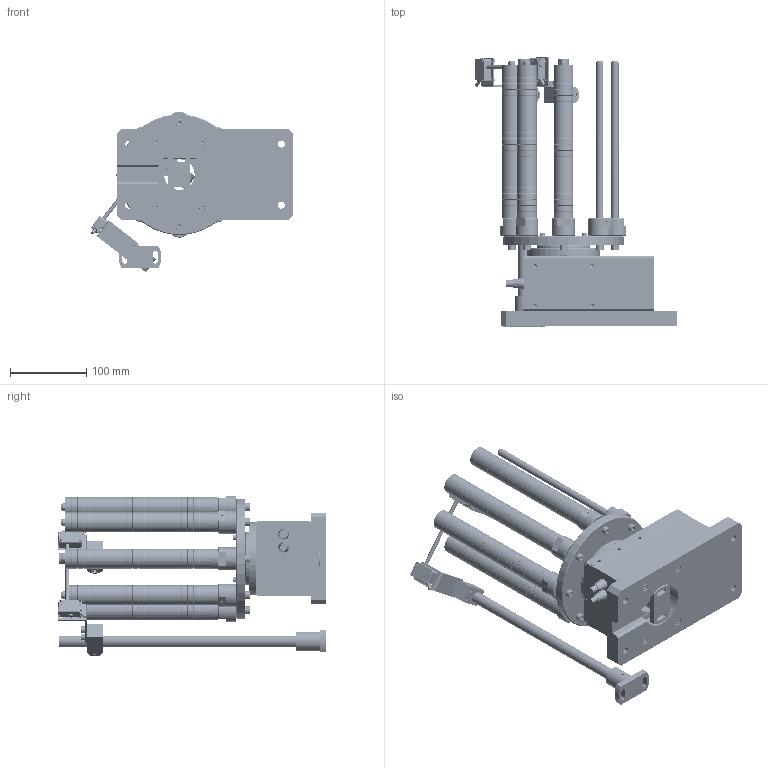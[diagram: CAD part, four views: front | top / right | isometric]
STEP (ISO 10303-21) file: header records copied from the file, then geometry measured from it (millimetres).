
FILE_DESCRIPTION (( 'STEP AP214' ), '1' );
FILE_NAME ('newローターリーストッカーASSY.STEP', '2025-10-22T08:29:05', ( '' ), ( '' ), 'SwSTEP 2.0', 'SolidWorks 2023', '' );
FILE_SCHEMA (( 'AUTOMOTIVE_DESIGN' ));
Length unit declared in the file: millimetre
Products named in the file (1): newローターリーストッカーASSY
Bounding box: 264.06 x 352 x 210.45 mm (x, y, z)
Volume: 2658873.5 mm3; surface area: 907169 mm2
Topology: 2197 solids, 2197 shells, 12704 faces, 31213 edges, 20233 vertices
Faces by surface type: cylinder 4248, sphere 3250, plane 2794, torus 1910, cone 502
Entity records: 481734 total; most frequent: DIRECTION 63930, CARTESIAN_POINT 52264, ORIENTED_EDGE 45888, AXIS2_PLACEMENT_3D 28389, EDGE_CURVE 22944, CIRCLE 15684, VERTEX_POINT 15358, UNCERTAINTY_MEASURE_WITH_UNIT 14902
